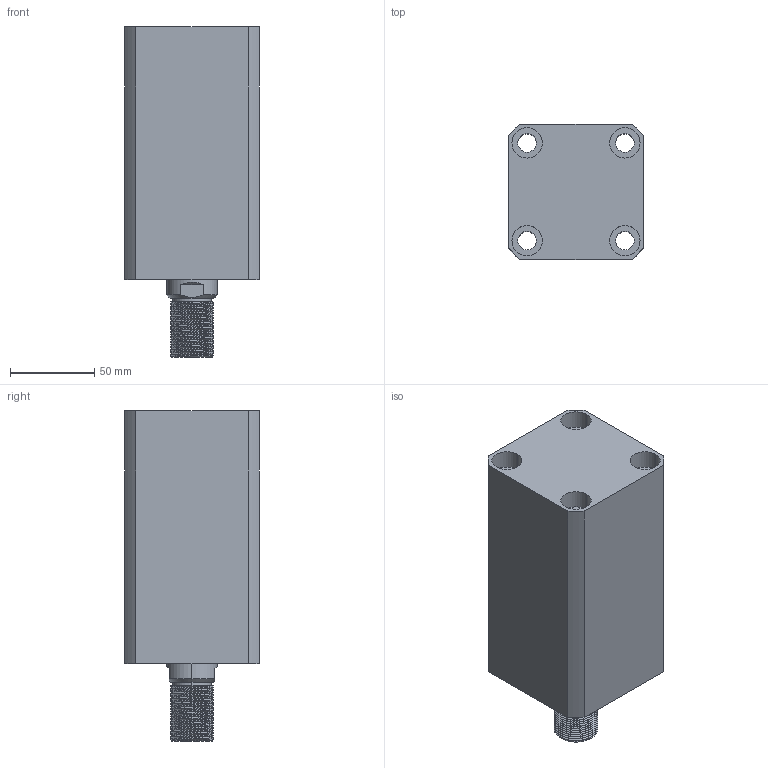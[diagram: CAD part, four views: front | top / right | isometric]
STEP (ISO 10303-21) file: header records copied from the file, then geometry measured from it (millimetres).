
FILE_DESCRIPTION (( 'STEP AP203' ), '1' );
FILE_NAME ('CHTB-SD50-90W.STEP', '2018-05-19T00:51:47', ( '' ), ( '' ), 'SwSTEP 2.0', 'SolidWorks 2015', '' );
FILE_SCHEMA (( 'CONFIG_CONTROL_DESIGN' ));
Length unit declared in the file: millimetre
Products named in the file (4): 活塞杆SD50-90W; CHTB-SD50-90W; 掛极SD50-90W; CHTM-SD50QG
Assembly tree (3 placements, depth 2):
  CHTB-SD50-90W
    掛极SD50-90W
    活塞杆SD50-90W
    CHTM-SD50QG
Bounding box: 80 x 80 x 196 mm (x, y, z)
Volume: 780749.7 mm3; surface area: 144117.4 mm2
Topology: 3 solids, 3 shells, 236 faces, 627 edges, 419 vertices
Faces by surface type: cylinder 144, plane 41, cone 19, bspline 16, torus 16
Entity records: 14613 total; most frequent: CARTESIAN_POINT 8784, ORIENTED_EDGE 1246, DIRECTION 1029, EDGE_CURVE 623, AXIS2_PLACEMENT_3D 422, VERTEX_POINT 419, EDGE_LOOP 276, FACE_OUTER_BOUND 236
